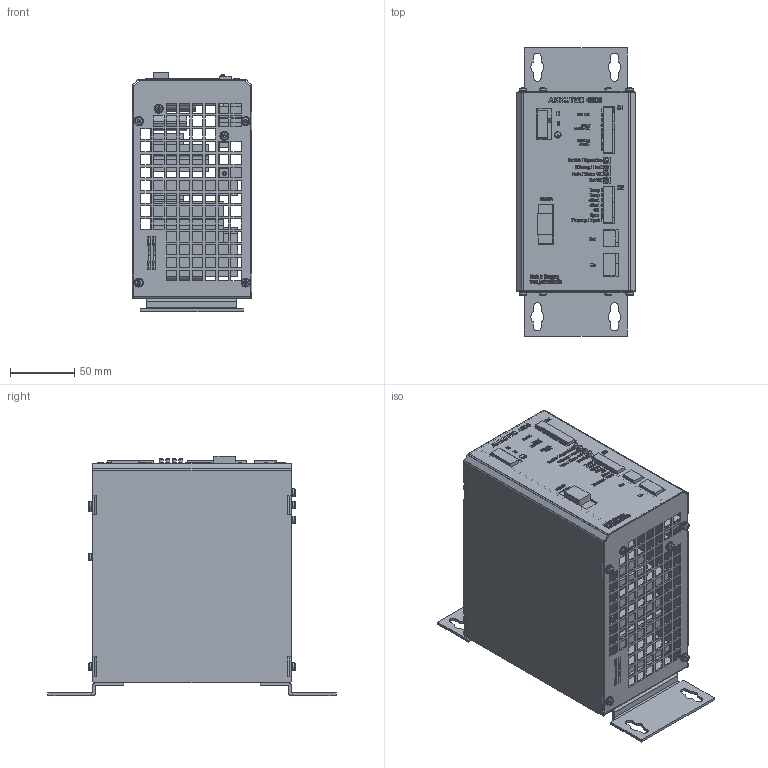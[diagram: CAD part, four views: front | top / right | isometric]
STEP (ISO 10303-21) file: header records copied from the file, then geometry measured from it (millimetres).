
FILE_DESCRIPTION(/* description */ ('STEP AP214'),/* implementation_level */ '2;1');
FILE_NAME(/* name */ 'C:\tmp\1630G01.stp',/* time_stamp */ '2020-08-04T12:50:27+02:00',/* author */ ('mhe'),/* organization */ (' '),/* preprocessor_version */ 'ST-DEVELOPER v17',/* originating_system */ 'Autodesk Inventor 2018',/* authorisation */ ' ');
FILE_SCHEMA (('AUTOMOTIVE_DESIGN { 1 0 10303 214 3 1 1 }'));
Products named in the file (15): 0812G02-130627; 0812G02-4020; 1; 10; 11; 12; 14; 2; 3; 4; 6; 7; 8; 9; DIN6900 M3x6-gvz
Assembly tree (25 placements, depth 2):
  0812G02-130627
    0812G02-4020
    1
    10
    11
    12
    14
    2
    3
    4
    6
    7
    8
    9
    DIN6900 M3x6-gvz  x12
Bounding box: 93.19 x 224 x 185.85 mm (x, y, z)
Volume: 441260.2 mm3; surface area: 409793.5 mm2
Topology: 94 solids, 94 shells, 6443 faces, 17660 edges, 11698 vertices
Faces by surface type: plane 4438, bspline 1279, cylinder 530, cone 112, torus 72, sphere 12
Full cylindrical faces by diameter (mm): 1.4 x6, 1.5 x2, 2.3 x4, 2.4 x3, 2.46 x4, 2.5 x8, 2.693 x12, 2.75 x12, 3 x25, 3.2 x14, 3.5 x4, 4 x2, 4.1 x4, 4.2 x8, 5 x1, 5.1 x1, 5.6 x12, 7 x12, 13 x2, 30 x2
Entity records: 201072 total; most frequent: CARTESIAN_POINT 50100, ORIENTED_EDGE 32846, DIRECTION 23921, EDGE_CURVE 16423, LINE 13197, VECTOR 13197, VERTEX_POINT 10862, EDGE_LOOP 7039
